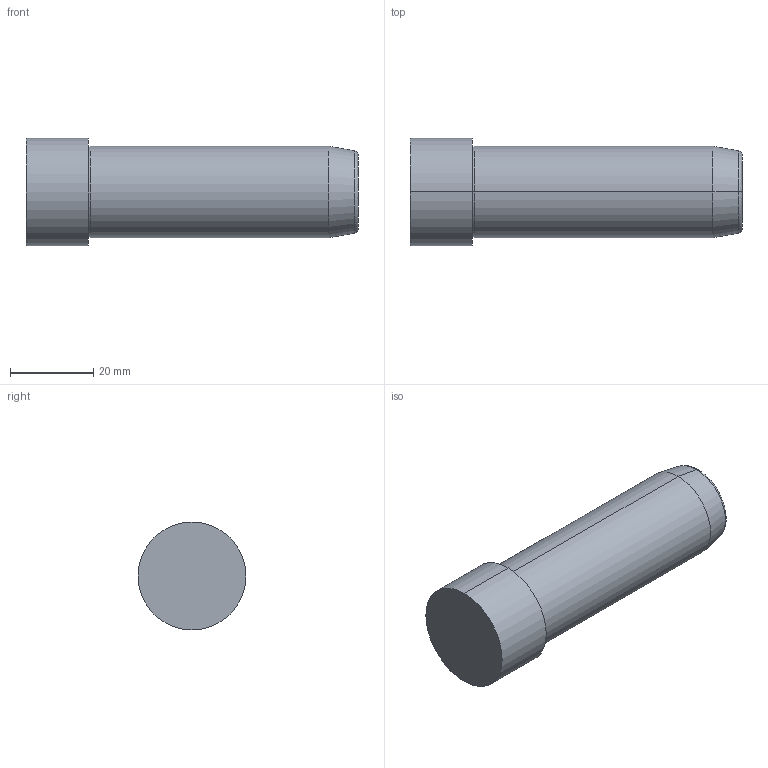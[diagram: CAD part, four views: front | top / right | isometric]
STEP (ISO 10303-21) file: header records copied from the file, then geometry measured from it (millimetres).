
FILE_DESCRIPTION( ( 'STEP AP203' ), '1' );
FILE_NAME( 'D:/Delta 3 D/D01D/22/D01D - 22x80.step', '2003-01-02T23:27:54', ( ' ' ), ( ' ' ), 'XStep 1.0', ' ', ' ' );
FILE_SCHEMA( ( 'CONFIG_CONTROL_DESIGN' ) );
Length unit declared in the file: metre
Products named in the file (1): 1
Bounding box: 80 x 26 x 26 mm (x, y, z)
Volume: 32368.1 mm3; surface area: 6694.7 mm2
Topology: 1 solids, 1 shells, 14 faces, 26 edges, 16 vertices
Faces by surface type: revolution 8, bspline 6
Entity records: 437 total; most frequent: CARTESIAN_POINT 121, ORIENTED_EDGE 52, DIRECTION 50, EDGE_CURVE 26, AXIS2_PLACEMENT_3D 17, EDGE_LOOP 16, VERTEX_POINT 16, CIRCLE 16
